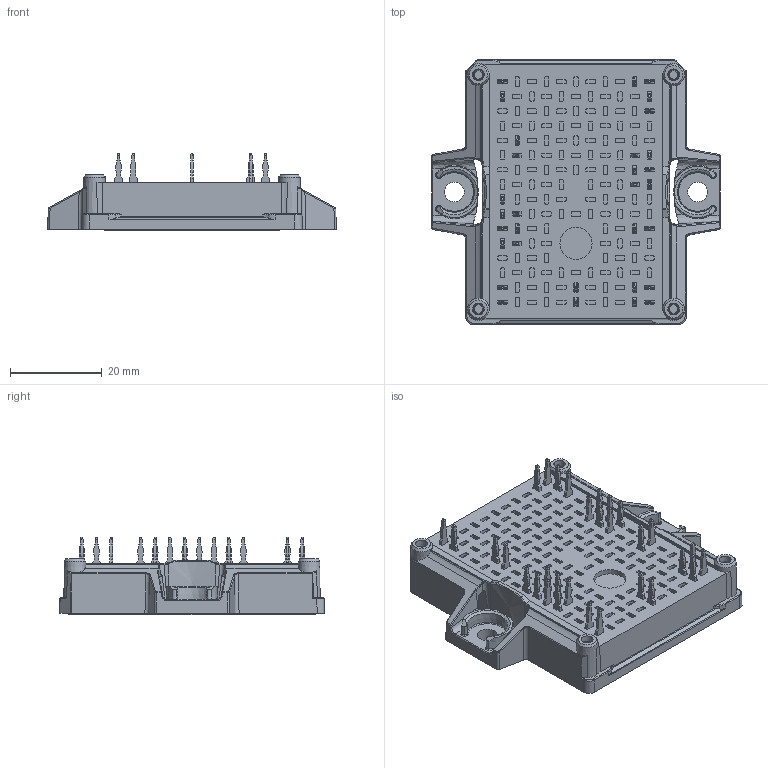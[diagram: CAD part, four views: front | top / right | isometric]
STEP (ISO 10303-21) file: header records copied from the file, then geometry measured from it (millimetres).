
FILE_DESCRIPTION(/* description */ ('Unknown'),/* implementation_level */ '2;1');
FILE_NAME(/* name */ 'FlowE2-4T12TA-PR50(310)-02-OL',/* time_stamp */ '2026-05-21T11:23:55+02:00',/* author */ ('Unknown'),/* organization */ ('Unknown'),/* preprocessor_version */ 'ST-DEVELOPER v20',/* originating_system */ 'Solid Edge',/* authorisation */ 'Unknown');
FILE_SCHEMA (('AUTOMOTIVE_DESIGN {1 0 10303 214 3 1 1}'));
Products named in the file (1): FlowE2-4T12TA-PR50-OL
Bounding box: 62.8 x 57.68 x 16.79 mm (x, y, z)
Volume: 26493.7 mm3; surface area: 12607.5 mm2
Topology: 1 solids, 1 shells, 4127 faces, 10246 edges, 6313 vertices
Faces by surface type: plane 2116, cylinder 1153, cone 710, bspline 102, torus 28, sphere 18
Full cylindrical faces by diameter (mm): 4.3 x2, 7 x1
Entity records: 150791 total; most frequent: CARTESIAN_POINT 22701, DIRECTION 21230, ORIENTED_EDGE 20388, EDGE_CURVE 10194, AXIS2_PLACEMENT_3D 7236, LINE 6758, VECTOR 6758, VERTEX_POINT 6300
